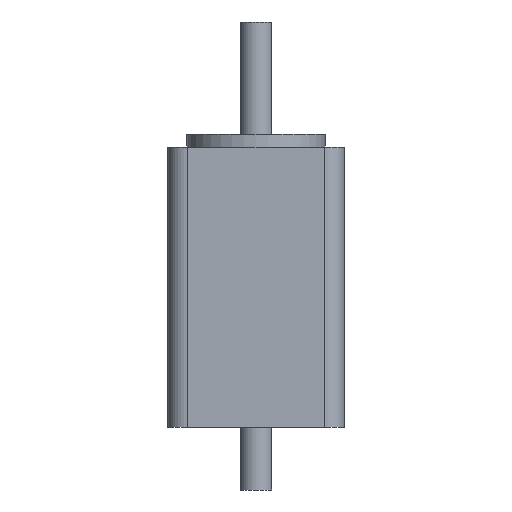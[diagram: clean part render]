
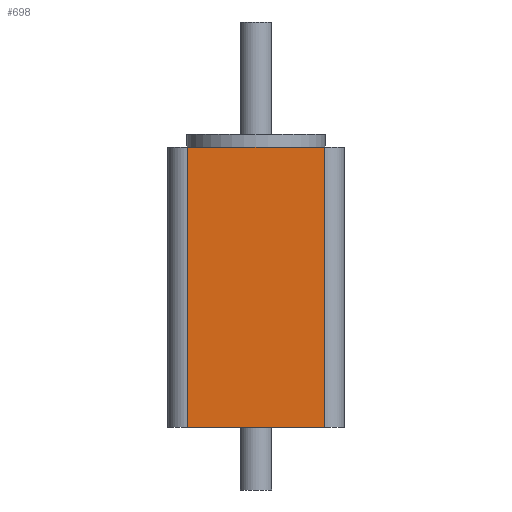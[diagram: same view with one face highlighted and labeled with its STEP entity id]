
A CAD part, front view. The second image highlights one B-rep face of the part: STEP entity #698.
In plain terms, the highlighted planar face has unit normal (0, -1, 0).
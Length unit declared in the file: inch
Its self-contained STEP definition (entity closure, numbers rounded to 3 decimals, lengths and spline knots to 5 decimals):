
#640=CARTESIAN_POINT('',(-0.425,-0.55,0.0));
#641=VERTEX_POINT('',#640);
#649=CARTESIAN_POINT('',(-0.425,-0.55,1.75));
#650=VERTEX_POINT('',#649);
#651=CARTESIAN_POINT('',(-0.425,-0.55,1.75));
#652=DIRECTION('',(0.0,0.0,-1.0));
#653=VECTOR('',#652,1.75);
#654=LINE('',#651,#653);
#655=EDGE_CURVE('',#650,#641,#654,.T.);
#668=CARTESIAN_POINT('',(-0.425,-0.55,1.75));
#669=DIRECTION('',(0.0,-1.0,0.0));
#670=DIRECTION('',(0.0,0.0,-1.0));
#671=AXIS2_PLACEMENT_3D('',#668,#669,#670);
#672=PLANE('',#671);
#673=CARTESIAN_POINT('',(0.425,-0.55,0.0));
#674=VERTEX_POINT('',#673);
#675=CARTESIAN_POINT('',(-0.425,-0.55,0.0));
#676=DIRECTION('',(1.0,0.0,0.0));
#677=VECTOR('',#676,0.85);
#678=LINE('',#675,#677);
#679=EDGE_CURVE('',#641,#674,#678,.T.);
#680=ORIENTED_EDGE('',*,*,#679,.T.);
#681=CARTESIAN_POINT('',(0.425,-0.55,1.75));
#682=VERTEX_POINT('',#681);
#683=CARTESIAN_POINT('',(0.425,-0.55,1.75));
#684=DIRECTION('',(0.0,0.0,-1.0));
#685=VECTOR('',#684,1.75);
#686=LINE('',#683,#685);
#687=EDGE_CURVE('',#682,#674,#686,.T.);
#688=ORIENTED_EDGE('',*,*,#687,.F.);
#689=CARTESIAN_POINT('',(-0.425,-0.55,1.75));
#690=DIRECTION('',(1.0,0.0,0.0));
#691=VECTOR('',#690,0.85);
#692=LINE('',#689,#691);
#693=EDGE_CURVE('',#650,#682,#692,.T.);
#694=ORIENTED_EDGE('',*,*,#693,.F.);
#695=ORIENTED_EDGE('',*,*,#655,.T.);
#696=EDGE_LOOP('',(#680,#688,#694,#695));
#697=FACE_OUTER_BOUND('',#696,.T.);
#698=ADVANCED_FACE('',(#697),#672,.T.);
